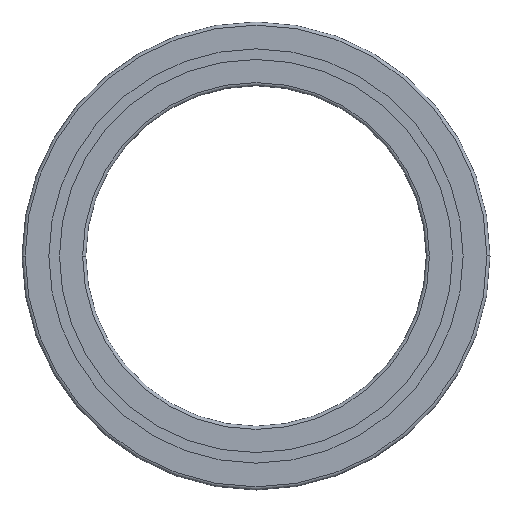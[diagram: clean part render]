
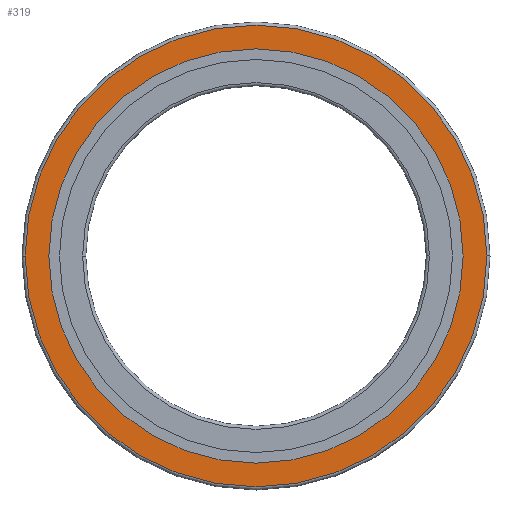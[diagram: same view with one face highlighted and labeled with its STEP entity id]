
A CAD part, front view. The second image highlights one B-rep face of the part: STEP entity #319.
In plain terms, the highlighted planar face has unit normal (0, -1, 0).
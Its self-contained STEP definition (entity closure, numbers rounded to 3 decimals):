
#215=CARTESIAN_POINT('POINT15',(97.375,0.,
   0.));
#216=VERTEX_POINT('VERTEX15',#215);
#223=CARTESIAN_POINT('POINT16',(-97.375,0.,
   0.));
#224=VERTEX_POINT('VERTEX16',#223);
#225=CARTESIAN_POINT('POS22',(0.,0.,0.));
#226=DIRECTION('DIR38',(0.,1.,0.));
#227=DIRECTION('DIR39',(1.,0.,0.));
#228=AXIS2_PLACEMENT_3D('AXIS17',#225,#226,#227);
#229=CIRCLE('ELLIPSE11',#228,97.375);
#230=EDGE_CURVE('EDGE22',#224,#216,#229,.T.);
#250=EDGE_CURVE('EDGE24',#216,#224,#229,.T.);
#295=CARTESIAN_POINT('POINT19',(108.5,0.,
   0.));
#296=VERTEX_POINT('VERTEX19',#295);
#297=CARTESIAN_POINT('POINT20',(-108.5,0.,
   0.));
#298=VERTEX_POINT('VERTEX20',#297);
#299=CARTESIAN_POINT('POS29',(0.,0.,0.));
#300=DIRECTION('DIR49',(0.,1.,0.));
#301=DIRECTION('DIR50',(1.,0.,0.));
#302=AXIS2_PLACEMENT_3D('AXIS21',#299,#300,#301);
#303=CIRCLE('ELLIPSE13',#302,108.5);
#304=EDGE_CURVE('EDGE29',#296,#298,#303,.T.);
#305=ORIENTED_EDGE('COEDGE53',*,*,#304,.F.);
#306=EDGE_CURVE('EDGE30',#298,#296,#303,.T.);
#307=ORIENTED_EDGE('COEDGE54',*,*,#306,.F.);
#308=EDGE_LOOP('NONE',(#305,#307));
#309=FACE_BOUND('LOOP1',#308,.T.);
#310=ORIENTED_EDGE('COEDGE55',*,*,#250,.T.);
#311=ORIENTED_EDGE('COEDGE56',*,*,#230,.T.);
#312=EDGE_LOOP('NONE',(#310,#311));
#313=FACE_BOUND('LOOP1',#312,.T.);
#314=CARTESIAN_POINT('POS30',(102.938,0.,
   0.));
#315=DIRECTION('DIR51',(0.,-1.,0.));
#316=DIRECTION('DIR52',(1.,0.,0.));
#317=AXIS2_PLACEMENT_3D('AXIS22',#314,#315,#316);
#318=PLANE('PLANE4',#317);
#319=ADVANCED_FACE('FACE14',(#309,#313),#318,.T.);
